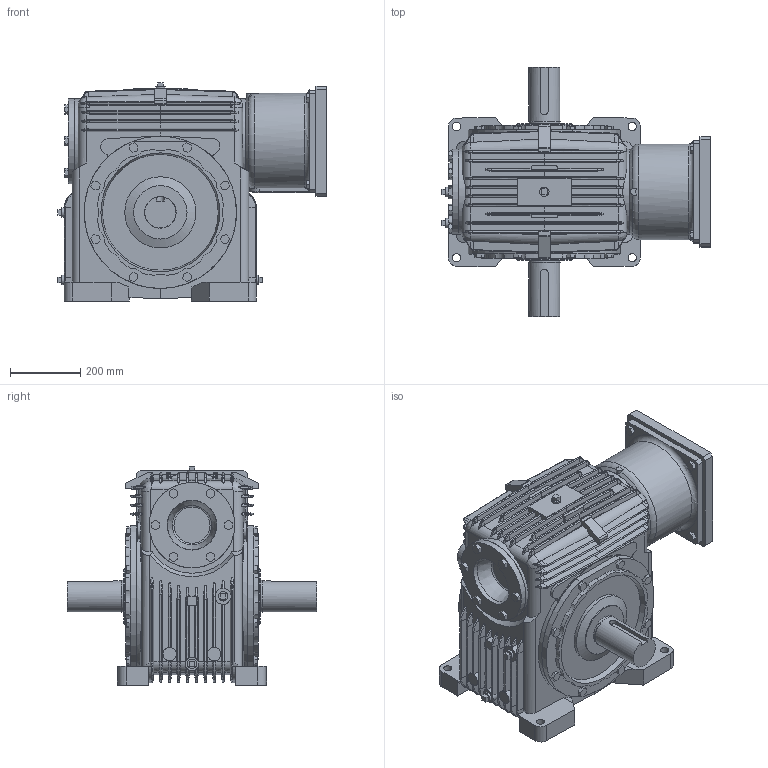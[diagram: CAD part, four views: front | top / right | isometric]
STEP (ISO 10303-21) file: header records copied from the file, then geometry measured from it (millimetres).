
FILE_DESCRIPTION(/* description */ ('Unknown'),/* implementation_level */ '2;1');
FILE_NAME(/* name */ 'O80CB-3-D01SBD-',/* time_stamp */ '2024-11-21T16:10:26-05:00',/* author */ ('Unknown'),/* organization */ ('Unknown'),/* preprocessor_version */ 'ST-DEVELOPER v19.4',/* originating_system */ 'Solid Edge',/* authorisation */ 'Unknown');
FILE_SCHEMA (('AUTOMOTIVE_DESIGN {1 0 10303 214 3 1 1}'));
Products named in the file (7): O80CB-3-D01SBD-; 80-1-CP; 80-OUTS; 80-WCAP; 80-SM20-4-CP; MP5D-01-CP; KM900-S-48
Assembly tree (7 placements, depth 2):
  O80CB-3-D01SBD-
    80-1-CP
    80-OUTS  x2
    80-WCAP
    80-SM20-4-CP
    MP5D-01-CP
    KM900-S-48
Bounding box: 766.2 x 711.17 x 623.63 mm (x, y, z)
Volume: 93193575.4 mm3; surface area: 4431388.7 mm2
Topology: 7 solids, 8 shells, 1344 faces, 3319 edges, 2074 vertices
Faces by surface type: plane 748, bspline 358, cylinder 221, cone 13, torus 4
Full cylindrical faces by diameter (mm): 0.254 x7, 13.835 x4, 15.875 x8, 23.812 x10, 26.924 x4, 38.1 x6, 45.72 x2, 48 x1, 50.787 x1, 50.8 x1, 53.975 x1, 88.887 x2, 90.488 x2, 105.2 x1, 106.68 x1, 133 x1, 152.4 x2, 154 x1, 177.8 x1, 177.825 x2, 178.308 x1, 178.333 x1, 202.692 x1, 203.2 x3, 243.84 x3, 250 x1, 254 x1, 269.875 x2, 435.102 x2
Entity records: 56978 total; most frequent: CARTESIAN_POINT 28583, ORIENTED_EDGE 5864, DIRECTION 4666, EDGE_CURVE 2932, VERTEX_POINT 1860, LINE 1722, VECTOR 1722, AXIS2_PLACEMENT_3D 1472
